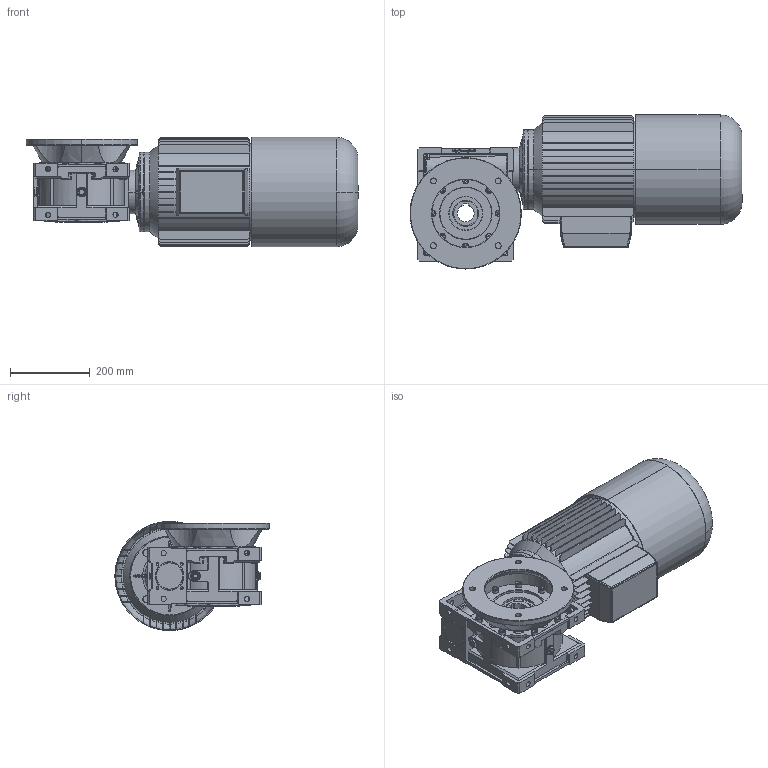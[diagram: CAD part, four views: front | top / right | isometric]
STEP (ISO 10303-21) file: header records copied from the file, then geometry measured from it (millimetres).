
FILE_DESCRIPTION((''),'2;1');
FILE_NAME('D:\_Assiemi MV\_File Sito\110\STP\MVFU110_B14-132MBRAKE.stp','2005-07-27T16:57:38',('tech2'),(''),'Autodesk Inventor 9','Autodesk Inventor 9','');
FILE_SCHEMA(('AUTOMOTIVE_DESIGN { 1 0 10303 214 1 1 1 1 }'));
Length unit declared in the file: millimetre
Products named in the file (17): MVFU110_B14-132MBRAKE; 4011001-A0; 4011004-A0; UNI 5931  (Filetto fine) M10 x  1.25 x  25; 4011008-A0; UNI-ISO 6194-1 (4) Tipo4 65 x  85 x  10; Capp-72-7; Guarnizione-tappo-3-8-gas; Tappo-3-8-gas-nero; Paraolio-50-80-7; 4011006-D0; UNI 5738  (Filetto fine) M10 x 1.25 x 35; motori B14 brake 132M; FU_MV110; UNI 5931  (Filetto regolare) M 10 x  25
Assembly tree (38 placements, depth 3):
  MVFU110_B14-132MBRAKE
    4011001-A0
    4011004-A0
    UNI 5931  (Filetto fine) M10 x  1.25 x  25  x8
    4011008-A0
    UNI-ISO 6194-1 (4) Tipo4 65 x  85 x  10  x2
    Capp-72-7
    Guarnizione-tappo-3-8-gas  x3
    Tappo-3-8-gas-nero  x3
    Paraolio-50-80-7
    4011006-D0
      4011006-D0
      UNI 5738  (Filetto fine) M10 x 1.25 x 35  x4
    motori B14 brake 132M
    FU_MV110
      FU_MV110
      UNI 5931  (Filetto regolare) M 10 x  25  x8
Bounding box: 834 x 387.5 x 275 mm (x, y, z)
Volume: 22634165.4 mm3; surface area: 2138178.6 mm2
Topology: 45 solids, 45 shells, 3983 faces, 10260 edges, 6440 vertices
Faces by surface type: plane 1535, cylinder 1092, bspline 1029, cone 241, torus 82, sphere 4
Entity records: 131093 total; most frequent: CARTESIAN_POINT 47069, ORIENTED_EDGE 18116, DIRECTION 16661, EDGE_CURVE 9058, AXIS2_PLACEMENT_3D 5968, VERTEX_POINT 5770, VECTOR 4725, LINE 4725
